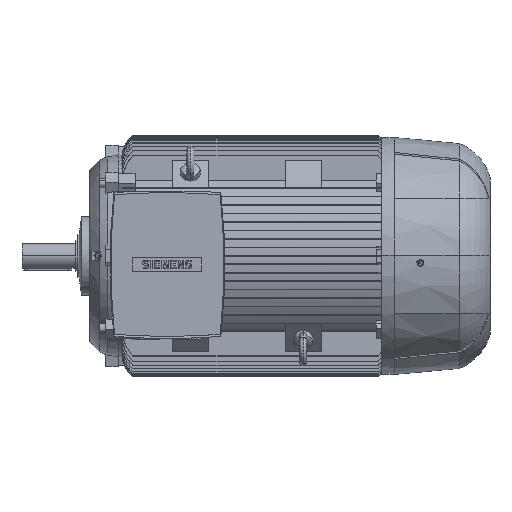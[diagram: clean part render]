
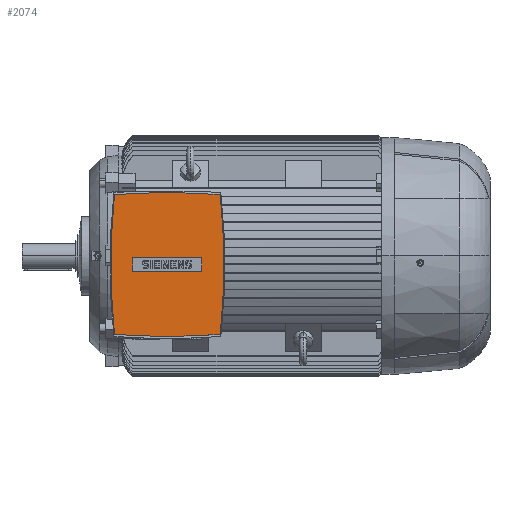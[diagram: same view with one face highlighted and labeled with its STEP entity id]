
A CAD part, top view. The second image highlights one B-rep face of the part: STEP entity #2074.
In plain terms, the highlighted planar face has unit normal (0, 0, 1).
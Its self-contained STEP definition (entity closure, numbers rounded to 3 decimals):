
#2074=ADVANCED_FACE('',(#5596,#5597),#5598,.T.);
#5596=FACE_BOUND('',#10609,.T.);
#5597=FACE_OUTER_BOUND('',#10610,.T.);
#5598=PLANE('',#10611);
#10609=EDGE_LOOP('',(#16934,#16935,#16936,#16937));
#10610=EDGE_LOOP('',(#16938,#16939,#16940,#16941,#16942,#16943));
#10611=AXIS2_PLACEMENT_3D('',#16944,#16945,#16946);
#16934=ORIENTED_EDGE('',*,*,#31725,.T.);
#16935=ORIENTED_EDGE('',*,*,#31722,.T.);
#16936=ORIENTED_EDGE('',*,*,#31719,.T.);
#16937=ORIENTED_EDGE('',*,*,#31716,.T.);
#16938=ORIENTED_EDGE('',*,*,#31805,.T.);
#16939=ORIENTED_EDGE('',*,*,#31806,.T.);
#16940=ORIENTED_EDGE('',*,*,#31270,.T.);
#16941=ORIENTED_EDGE('',*,*,#31807,.T.);
#16942=ORIENTED_EDGE('',*,*,#31263,.T.);
#16943=ORIENTED_EDGE('',*,*,#31808,.T.);
#16944=CARTESIAN_POINT('',(128.0,-23.0,515.0));
#16945=DIRECTION('',(0.0,0.0,1.0));
#16946=DIRECTION('',(0.0,-1.0,0.0));
#31263=EDGE_CURVE('',#37924,#37921,#37925,.T.);
#31270=EDGE_CURVE('',#37931,#37935,#37937,.T.);
#31716=EDGE_CURVE('',#38614,#38612,#38615,.T.);
#31719=EDGE_CURVE('',#38618,#38614,#38619,.T.);
#31722=EDGE_CURVE('',#38622,#38618,#38623,.T.);
#31725=EDGE_CURVE('',#38612,#38622,#38626,.T.);
#31805=EDGE_CURVE('',#38730,#38731,#38732,.T.);
#31806=EDGE_CURVE('',#38731,#37931,#38733,.T.);
#31807=EDGE_CURVE('',#37935,#37924,#38734,.T.);
#31808=EDGE_CURVE('',#37921,#38730,#38735,.T.);
#37921=VERTEX_POINT('',#50085);
#37924=VERTEX_POINT('',#50089);
#37925=CIRCLE('',#50090,1847.82);
#37931=VERTEX_POINT('',#50097);
#37935=VERTEX_POINT('',#50102);
#37937=CIRCLE('',#50105,1847.82);
#38612=VERTEX_POINT('',#51127);
#38614=VERTEX_POINT('',#51130);
#38615=LINE('',#51131,#51132);
#38618=VERTEX_POINT('',#51136);
#38619=LINE('',#51137,#51138);
#38622=VERTEX_POINT('',#51142);
#38623=LINE('',#51143,#51144);
#38626=LINE('',#51148,#51149);
#38730=VERTEX_POINT('',#51297);
#38731=VERTEX_POINT('',#51298);
#38732=CIRCLE('',#51299,1645.6);
#38733=CIRCLE('',#51300,1847.82);
#38734=CIRCLE('',#51301,1645.6);
#38735=CIRCLE('',#51302,1847.82);
#50085=CARTESIAN_POINT('',(128.0,163.5,515.0));
#50089=CARTESIAN_POINT('',(265.474,158.379,515.0));
#50090=AXIS2_PLACEMENT_3D('',#72988,#72989,#72990);
#50097=CARTESIAN_POINT('',(128.0,-209.5,515.0));
#50102=CARTESIAN_POINT('',(265.474,-204.379,515.0));
#50105=AXIS2_PLACEMENT_3D('',#73000,#73001,#73002);
#51127=CARTESIAN_POINT('',(218.0,-40.5,515.0));
#51130=CARTESIAN_POINT('',(218.0,-5.5,515.0));
#51131=CARTESIAN_POINT('',(218.0,-23.0,515.0));
#51132=VECTOR('',#73451,1.0);
#51136=CARTESIAN_POINT('',(38.0,-5.5,515.0));
#51137=CARTESIAN_POINT('',(128.0,-5.5,515.0));
#51138=VECTOR('',#73453,1.0);
#51142=CARTESIAN_POINT('',(38.0,-40.5,515.0));
#51143=CARTESIAN_POINT('',(38.0,-23.0,515.0));
#51144=VECTOR('',#73455,1.0);
#51148=CARTESIAN_POINT('',(128.0,-40.5,515.0));
#51149=VECTOR('',#73457,1.0);
#51297=CARTESIAN_POINT('',(-9.474,158.379,515.0));
#51298=CARTESIAN_POINT('',(-9.474,-204.379,515.0));
#51299=AXIS2_PLACEMENT_3D('',#73523,#73524,#73525);
#51300=AXIS2_PLACEMENT_3D('',#73526,#73527,#73528);
#51301=AXIS2_PLACEMENT_3D('',#73529,#73530,#73531);
#51302=AXIS2_PLACEMENT_3D('',#73532,#73533,#73534);
#72988=CARTESIAN_POINT('',(128.0,-1684.32,515.0));
#72989=DIRECTION('',(0.0,-0.0,1.0));
#72990=DIRECTION('',(0.0,1.0,0.0));
#73000=CARTESIAN_POINT('',(128.0,1638.32,515.0));
#73001=DIRECTION('',(0.0,-0.0,1.0));
#73002=DIRECTION('',(0.0,1.0,0.0));
#73451=DIRECTION('',(0.0,-1.0,0.0));
#73453=DIRECTION('',(1.0,0.0,-0.0));
#73455=DIRECTION('',(0.0,1.0,0.0));
#73457=DIRECTION('',(-1.0,0.0,0.0));
#73523=CARTESIAN_POINT('',(1626.1,-23.0,515.0));
#73524=DIRECTION('',(0.0,-0.0,1.0));
#73525=DIRECTION('',(0.0,1.0,0.0));
#73526=CARTESIAN_POINT('',(128.0,1638.32,515.0));
#73527=DIRECTION('',(0.0,-0.0,1.0));
#73528=DIRECTION('',(0.0,1.0,0.0));
#73529=CARTESIAN_POINT('',(-1370.1,-23.0,515.0));
#73530=DIRECTION('',(0.0,-0.0,1.0));
#73531=DIRECTION('',(0.0,1.0,0.0));
#73532=CARTESIAN_POINT('',(128.0,-1684.32,515.0));
#73533=DIRECTION('',(0.0,-0.0,1.0));
#73534=DIRECTION('',(0.0,1.0,0.0));
